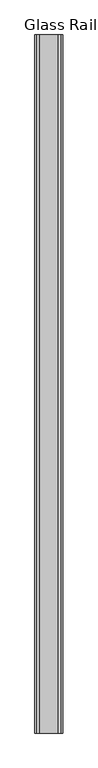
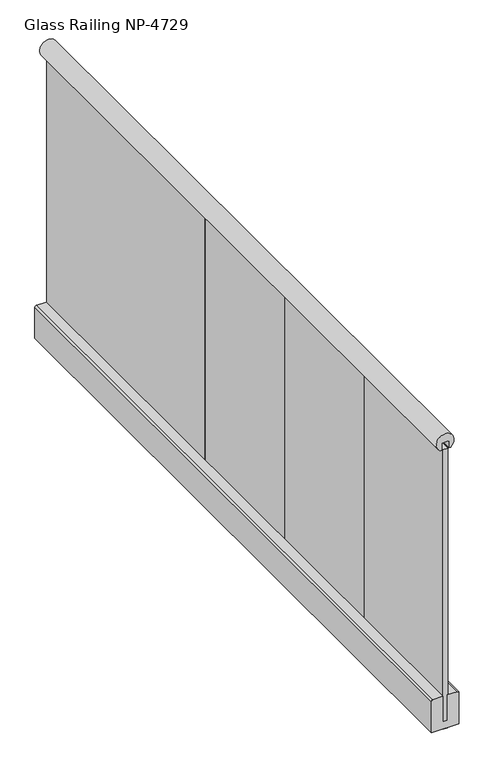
"""IFC4 building model written with IfcOpenShell, lengths in millimetres: railing geometry, Glass Railing NP-4729."""

from ifc_helpers import new_model, si_unit, point, frame, frame_2d, origin, place, context, project, spatial, polyline, circle_curve, trimmed, segment, composite_curve, outline, extrude, source, transform, mapped, element, save


def glass_railing_np_4729_5ec24cf3(model_context):
    return source(origin(), model_context, "Body", "SweptSolid", [
        extrude(outline(composite_curve([segment(trimmed(circle_curve(frame_2d((319.0, 22970.2425066)), 6.0), [point((319.0, 22976.2425066))], [point((325.0, 22970.2425066))], False, "CARTESIAN"), True, "CONTINUOUS"), segment(polyline([(325.0, 22970.2425066), (325.0, 22935.0025066), (227.0, 22935.0025066), (227.0, 22917.4825066), (325.0, 22917.4825066), (325.0, 22882.2425066)]), True, "CONTINUOUS"), segment(trimmed(circle_curve(frame_2d((319.0, 22882.2425066)), 6.0), [point((325.0, 22882.2425066))], [point((319.0, 22876.2425066))], False, "CARTESIAN"), True, "CONTINUOUS"), segment(polyline([(319.0, 22876.2425066), (200.0, 22876.2425066), (200.0, 22976.2425066), (319.0, 22976.2425066)]), True, "CONTINUOUS")], self_intersect=False)), frame((0.0, -1153.4615474, 0.0), z_axis=(0.0, 1.0, 0.0), x_axis=(0.0, 0.0, 1.0)), (0.0, 0.0, 1.0), 2500.0),
        extrude(outline(composite_curve([segment(trimmed(circle_curve(frame_2d((1299.3680551, 22926.2425066)), 32.5), [point((1273.8439266, 22946.3613749))], [point((1273.8439266, 22906.1236383))], False, "CARTESIAN"), True, "CONTINUOUS"), segment(trimmed(circle_curve(frame_2d((1276.2, 22907.9807646)), 3.0), [point((1273.8439266, 22906.1236383))], [point((1273.2, 22907.9807646))], False, "CARTESIAN"), True, "CONTINUOUS"), segment(polyline([(1273.2, 22907.9807646), (1273.2, 22912.6425066)]), True, "CONTINUOUS"), segment(trimmed(circle_curve(frame_2d((1274.2, 22912.6425066)), 1.0), [point((1273.2, 22912.6425066))], [point((1274.2, 22913.6425066))], False, "CARTESIAN"), True, "CONTINUOUS"), segment(polyline([(1274.2, 22913.6425066), (1299.0, 22913.6425066)]), True, "CONTINUOUS"), segment(trimmed(circle_curve(frame_2d((1299.0, 22914.6425066)), 1.0), [point((1299.0, 22913.6425066))], [point((1300.0, 22914.6425066))], True, "CARTESIAN"), True, "CONTINUOUS"), segment(polyline([(1300.0, 22914.6425066), (1300.0, 22937.8425066)]), True, "CONTINUOUS"), segment(trimmed(circle_curve(frame_2d((1299.0, 22937.8425066)), 1.0), [point((1300.0, 22937.8425066))], [point((1299.0, 22938.8425066))], True, "CARTESIAN"), True, "CONTINUOUS"), segment(polyline([(1299.0, 22938.8425066), (1274.2, 22938.8425066)]), True, "CONTINUOUS"), segment(trimmed(circle_curve(frame_2d((1274.2, 22939.8425066)), 1.0), [point((1274.2, 22938.8425066))], [point((1273.2, 22939.8425066))], False, "CARTESIAN"), True, "CONTINUOUS"), segment(polyline([(1273.2, 22939.8425066), (1273.2, 22944.5042486)]), True, "CONTINUOUS"), segment(trimmed(circle_curve(frame_2d((1276.2, 22944.5042486)), 3.0), [point((1273.2, 22944.5042486))], [point((1273.8439266, 22946.3613749))], False, "CARTESIAN"), True, "CONTINUOUS")], self_intersect=False)), frame((0.0, -1153.4615474, 0.0), z_axis=(0.0, 1.0, 0.0), x_axis=(0.0, 0.0, 1.0)), (0.0, 0.0, 1.0), 2500.0),
        extrude(outline(polyline([(22918.7425066, 346.5384526), (22918.7425066, 1346.5384526), (22936.2425066, 1346.5384526), (22936.2425066, 346.5384526), (22918.7425066, 346.5384526)])), frame((0.0, 0.0, 198.5), z_axis=(0.0, 0.0, 1.0), x_axis=(1.0, 0.0, 0.0)), (0.0, 0.0, 1.0), 1074.7),
        extrude(outline(polyline([(22918.7425066, -153.4615474), (22918.7425066, 846.5384526), (22936.2425066, 846.5384526), (22936.2425066, -153.4615474), (22918.7425066, -153.4615474)])), frame((0.0, 0.0, 198.5), z_axis=(0.0, 0.0, 1.0), x_axis=(1.0, 0.0, 0.0)), (0.0, 0.0, 1.0), 1074.7),
        extrude(outline(polyline([(22918.7425066, -653.4615474), (22918.7425066, 346.5384526), (22936.2425066, 346.5384526), (22936.2425066, -653.4615474), (22918.7425066, -653.4615474)])), frame((0.0, 0.0, 198.5), z_axis=(0.0, 0.0, 1.0), x_axis=(1.0, 0.0, 0.0)), (0.0, 0.0, 1.0), 1074.7),
        extrude(outline(polyline([(22918.7425066, -1153.4615474), (22918.7425066, -153.4615474), (22936.2425066, -153.4615474), (22936.2425066, -1153.4615474), (22918.7425066, -1153.4615474)])), frame((0.0, 0.0, 198.5), z_axis=(0.0, 0.0, 1.0), x_axis=(1.0, 0.0, 0.0)), (0.0, 0.0, 1.0), 1074.7),
    ])


if __name__ == "__main__":
    model = new_model("IFC4")
    model_context = context("Model", 3, world=origin())
    ifc_project = project(units=[si_unit("LENGTHUNIT", "METRE", prefix="MILLI")], contexts=[model_context])
    site = spatial("IfcSite", under=ifc_project)
    building = spatial("IfcBuilding", under=site)
    placement = place(None, origin())
    glass_railing_np_4729_shape = glass_railing_np_4729_5ec24cf3(model_context)
    element("IfcRailing", 1, ObjectType="Glass Railing NP-4729", at=placement, inside=building, context=model_context, shape_type="MappedRepresentation", body=[
        mapped(glass_railing_np_4729_shape, transform((0.0, 0.0, 0.0), x_axis=(1.0, 0.0, 0.0), y_axis=(0.0, 1.0, 0.0), z_axis=(0.0, 0.0, 1.0))),
    ])
    save(model, "model.ifc")
